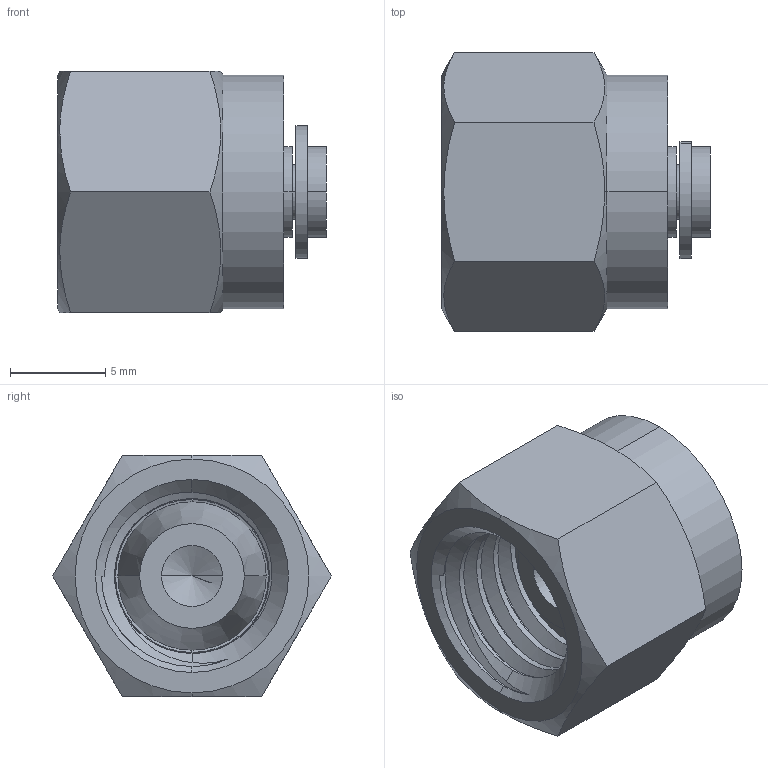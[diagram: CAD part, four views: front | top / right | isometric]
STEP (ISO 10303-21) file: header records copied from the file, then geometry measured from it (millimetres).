
FILE_DESCRIPTION (( 'STEP AP203' ), '1' );
FILE_NAME ('DBA03 SS.STEP', '2009-09-08T04:41:45', ( ' ' ), ( '' ), 'SwSTEP 2.0', 'SolidWorks 2008', '' );
FILE_SCHEMA (( 'CONFIG_CONTROL_DESIGN' ));
Length unit declared in the file: millimetre
Products named in the file (1): DBA03 SS
Bounding box: 14.14 x 14.66 x 12.7 mm (x, y, z)
Volume: 1243.9 mm3; surface area: 1350 mm2
Topology: 2 solids, 2 shells, 77 faces, 195 edges, 126 vertices
Faces by surface type: cylinder 38, plane 23, cone 13, bspline 3
Entity records: 3085 total; most frequent: CARTESIAN_POINT 1221, ORIENTED_EDGE 386, DIRECTION 365, EDGE_CURVE 193, AXIS2_PLACEMENT_3D 143, VERTEX_POINT 126, EDGE_LOOP 83, LINE 79
